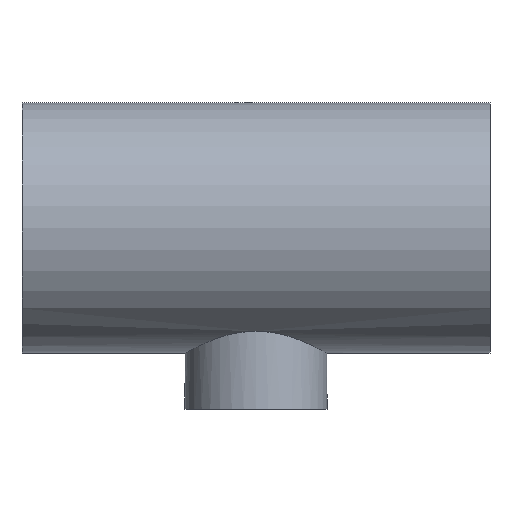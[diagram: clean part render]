
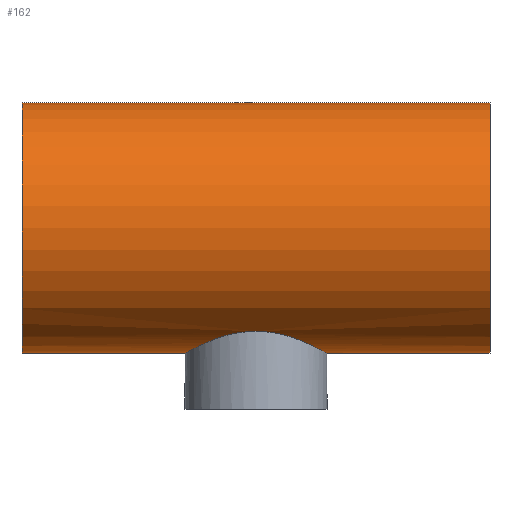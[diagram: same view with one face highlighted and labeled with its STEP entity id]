
A CAD part, top view. The second image highlights one B-rep face of the part: STEP entity #162.
In plain terms, the highlighted cylindrical face has radius 45 mm (diameter 90 mm), a full revolution.
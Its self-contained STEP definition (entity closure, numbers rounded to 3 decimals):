
#16=B_SPLINE_CURVE_WITH_KNOTS('',3,(#344,#345,#346,#347,#348,#349,#350,
#351,#352,#353,#354,#355,#356,#357,#358,#359,#360,#361,#362,#363,#364,#365,
#366,#367,#368,#369,#370,#371,#372,#373,#374,#375,#376,#377,#378,#379,#380,
#381,#382,#383,#384,#385,#386,#387,#388,#389,#390,#391,#392,#393,#394,#395,
#396,#397,#398,#399,#400,#401,#402,#403,#404,#405,#406,#407,#408,#409),
 .UNSPECIFIED.,.T.,.F.,(4,2,2,2,2,2,2,2,2,2,2,2,2,2,2,2,2,2,2,2,2,2,2,2,
2,2,2,2,2,2,2,2,4),(0.,0.495,0.989,1.484,
1.979,2.471,2.963,3.456,3.948,
4.44,4.932,5.425,5.917,6.412,
6.906,7.401,7.896,8.39,8.885,
9.38,9.874,10.367,10.859,11.351,
11.843,12.336,12.828,13.32,13.813,
14.307,14.802,15.297,15.791),
 .UNSPECIFIED.);
#32=FACE_BOUND('',#69,.T.);
#33=FACE_BOUND('',#70,.T.);
#46=FACE_OUTER_BOUND('',#68,.T.);
#68=EDGE_LOOP('',(#136));
#69=EDGE_LOOP('',(#137));
#70=EDGE_LOOP('',(#138));
#88=CIRCLE('',#187,45.);
#89=CIRCLE('',#188,45.);
#101=VERTEX_POINT('',#341);
#102=VERTEX_POINT('',#343);
#103=VERTEX_POINT('',#410);
#115=EDGE_CURVE('',#101,#101,#88,.T.);
#116=EDGE_CURVE('',#102,#102,#16,.T.);
#117=EDGE_CURVE('',#103,#103,#89,.T.);
#136=ORIENTED_EDGE('',*,*,#115,.F.);
#137=ORIENTED_EDGE('',*,*,#116,.T.);
#138=ORIENTED_EDGE('',*,*,#117,.F.);
#152=CYLINDRICAL_SURFACE('',#186,45.);
#162=ADVANCED_FACE('',(#46,#32,#33),#152,.T.);
#186=AXIS2_PLACEMENT_3D('',#340,#230,#231);
#187=AXIS2_PLACEMENT_3D('',#342,#232,#233);
#188=AXIS2_PLACEMENT_3D('',#411,#234,#235);
#230=DIRECTION('center_axis',(1.,0.,0.));
#231=DIRECTION('ref_axis',(0.,-1.,0.));
#232=DIRECTION('center_axis',(-1.,0.,0.));
#233=DIRECTION('ref_axis',(0.,-1.,0.));
#234=DIRECTION('center_axis',(1.,0.,0.));
#235=DIRECTION('ref_axis',(0.,-1.,0.));
#340=CARTESIAN_POINT('Origin',(0.,0.,0.));
#341=CARTESIAN_POINT('',(-84.,45.,0.));
#342=CARTESIAN_POINT('Origin',(-84.,0.,0.));
#343=CARTESIAN_POINT('',(0.,-37.078,25.5));
#344=CARTESIAN_POINT('Ctrl Pts',(0.,-37.078,
25.5));
#345=CARTESIAN_POINT('Ctrl Pts',(1.649,-37.078,25.5));
#346=CARTESIAN_POINT('Ctrl Pts',(3.337,-37.191,25.338));
#347=CARTESIAN_POINT('Ctrl Pts',(6.664,-37.636,24.672));
#348=CARTESIAN_POINT('Ctrl Pts',(8.303,-37.966,24.17));
#349=CARTESIAN_POINT('Ctrl Pts',(11.427,-38.769,22.859));
#350=CARTESIAN_POINT('Ctrl Pts',(12.915,-39.242,22.05));
#351=CARTESIAN_POINT('Ctrl Pts',(15.66,-40.229,20.193));
#352=CARTESIAN_POINT('Ctrl Pts',(16.917,-40.742,19.145));
#353=CARTESIAN_POINT('Ctrl Pts',(19.14,-41.714,16.923));
#354=CARTESIAN_POINT('Ctrl Pts',(20.187,-42.209,15.668));
#355=CARTESIAN_POINT('Ctrl Pts',(22.046,-43.129,12.922));
#356=CARTESIAN_POINT('Ctrl Pts',(22.858,-43.554,11.431));
#357=CARTESIAN_POINT('Ctrl Pts',(24.172,-44.257,8.299));
#358=CARTESIAN_POINT('Ctrl Pts',(24.675,-44.537,6.655));
#359=CARTESIAN_POINT('Ctrl Pts',(25.339,-44.908,3.326));
#360=CARTESIAN_POINT('Ctrl Pts',(25.5,-45.,1.641));
#361=CARTESIAN_POINT('Ctrl Pts',(25.5,-45.,-1.641));
#362=CARTESIAN_POINT('Ctrl Pts',(25.339,-44.908,-3.326));
#363=CARTESIAN_POINT('Ctrl Pts',(24.675,-44.537,-6.655));
#364=CARTESIAN_POINT('Ctrl Pts',(24.172,-44.257,-8.299));
#365=CARTESIAN_POINT('Ctrl Pts',(22.858,-43.554,-11.431));
#366=CARTESIAN_POINT('Ctrl Pts',(22.046,-43.129,-12.922));
#367=CARTESIAN_POINT('Ctrl Pts',(20.187,-42.209,-15.668));
#368=CARTESIAN_POINT('Ctrl Pts',(19.14,-41.714,-16.923));
#369=CARTESIAN_POINT('Ctrl Pts',(16.917,-40.742,-19.145));
#370=CARTESIAN_POINT('Ctrl Pts',(15.66,-40.229,-20.193));
#371=CARTESIAN_POINT('Ctrl Pts',(12.915,-39.242,-22.05));
#372=CARTESIAN_POINT('Ctrl Pts',(11.427,-38.769,-22.859));
#373=CARTESIAN_POINT('Ctrl Pts',(8.303,-37.966,-24.17));
#374=CARTESIAN_POINT('Ctrl Pts',(6.664,-37.636,-24.672));
#375=CARTESIAN_POINT('Ctrl Pts',(3.337,-37.191,-25.338));
#376=CARTESIAN_POINT('Ctrl Pts',(1.649,-37.078,-25.5));
#377=CARTESIAN_POINT('Ctrl Pts',(-1.649,-37.078,-25.5));
#378=CARTESIAN_POINT('Ctrl Pts',(-3.337,-37.191,-25.338));
#379=CARTESIAN_POINT('Ctrl Pts',(-6.664,-37.636,-24.672));
#380=CARTESIAN_POINT('Ctrl Pts',(-8.303,-37.966,-24.17));
#381=CARTESIAN_POINT('Ctrl Pts',(-11.427,-38.769,-22.859));
#382=CARTESIAN_POINT('Ctrl Pts',(-12.915,-39.242,-22.05));
#383=CARTESIAN_POINT('Ctrl Pts',(-15.66,-40.229,-20.193));
#384=CARTESIAN_POINT('Ctrl Pts',(-16.917,-40.742,-19.145));
#385=CARTESIAN_POINT('Ctrl Pts',(-19.14,-41.714,-16.923));
#386=CARTESIAN_POINT('Ctrl Pts',(-20.187,-42.209,-15.668));
#387=CARTESIAN_POINT('Ctrl Pts',(-22.046,-43.129,-12.922));
#388=CARTESIAN_POINT('Ctrl Pts',(-22.858,-43.554,-11.431));
#389=CARTESIAN_POINT('Ctrl Pts',(-24.172,-44.257,-8.299));
#390=CARTESIAN_POINT('Ctrl Pts',(-24.675,-44.537,-6.655));
#391=CARTESIAN_POINT('Ctrl Pts',(-25.339,-44.908,-3.326));
#392=CARTESIAN_POINT('Ctrl Pts',(-25.5,-45.,-1.641));
#393=CARTESIAN_POINT('Ctrl Pts',(-25.5,-45.,1.641));
#394=CARTESIAN_POINT('Ctrl Pts',(-25.339,-44.908,3.326));
#395=CARTESIAN_POINT('Ctrl Pts',(-24.675,-44.537,6.655));
#396=CARTESIAN_POINT('Ctrl Pts',(-24.172,-44.257,8.299));
#397=CARTESIAN_POINT('Ctrl Pts',(-22.858,-43.554,11.431));
#398=CARTESIAN_POINT('Ctrl Pts',(-22.046,-43.129,12.922));
#399=CARTESIAN_POINT('Ctrl Pts',(-20.187,-42.209,15.668));
#400=CARTESIAN_POINT('Ctrl Pts',(-19.14,-41.714,16.923));
#401=CARTESIAN_POINT('Ctrl Pts',(-16.917,-40.742,19.145));
#402=CARTESIAN_POINT('Ctrl Pts',(-15.66,-40.229,20.193));
#403=CARTESIAN_POINT('Ctrl Pts',(-12.915,-39.242,22.05));
#404=CARTESIAN_POINT('Ctrl Pts',(-11.427,-38.769,22.859));
#405=CARTESIAN_POINT('Ctrl Pts',(-8.303,-37.966,24.17));
#406=CARTESIAN_POINT('Ctrl Pts',(-6.664,-37.636,24.672));
#407=CARTESIAN_POINT('Ctrl Pts',(-3.337,-37.191,25.338));
#408=CARTESIAN_POINT('Ctrl Pts',(-1.649,-37.078,25.5));
#409=CARTESIAN_POINT('Ctrl Pts',(0.,-37.078,
25.5));
#410=CARTESIAN_POINT('',(84.,45.,0.));
#411=CARTESIAN_POINT('Origin',(84.,0.,0.));
